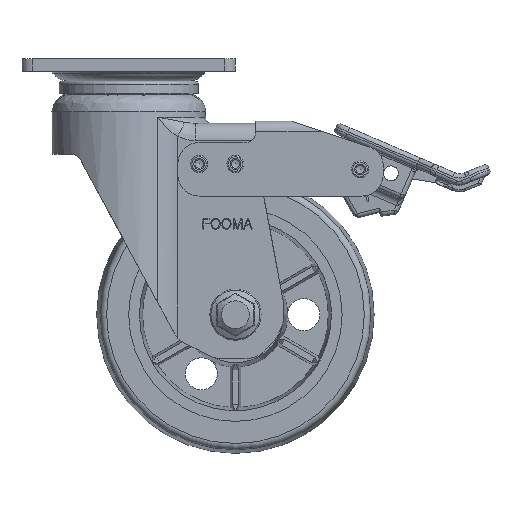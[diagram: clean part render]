
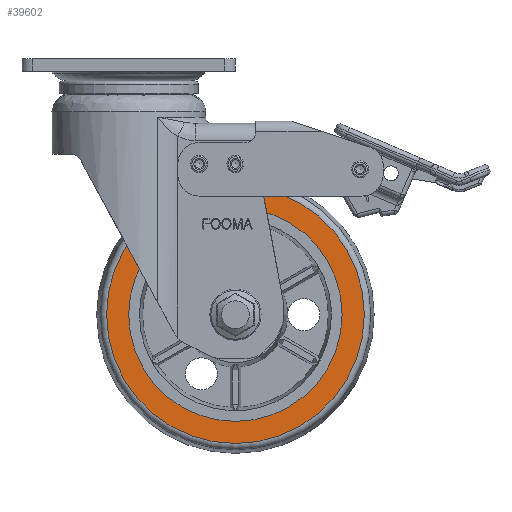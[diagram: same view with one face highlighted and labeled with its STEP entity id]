
A CAD part, left-side view. The second image highlights one B-rep face of the part: STEP entity #39602.
In plain terms, the highlighted planar face has unit normal (-1, 0, 0).
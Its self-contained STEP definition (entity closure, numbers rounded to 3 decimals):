
#39551=CARTESIAN_POINT('',(-114.013,277.184,-188.712));
#39552=VERTEX_POINT('',#39551);
#39553=CARTESIAN_POINT('',(-114.013,337.558,-188.712));
#39554=DIRECTION('',(1.0,0.0,0.0));
#39555=DIRECTION('',(0.0,1.0,0.0));
#39556=AXIS2_PLACEMENT_3D('',#39553,#39554,#39555);
#39557=CIRCLE('',#39556,60.373);
#39558=EDGE_CURVE('',#39552,#39552,#39557,.T.);
#39583=CARTESIAN_POINT('',(-114.013,306.058,-188.712));
#39584=DIRECTION('',(-1.0,0.0,0.0));
#39585=DIRECTION('',(0.0,0.0,1.0));
#39586=AXIS2_PLACEMENT_3D('',#39583,#39584,#39585);
#39587=PLANE('',#39586);
#39588=ORIENTED_EDGE('',*,*,#39558,.F.);
#39589=EDGE_LOOP('',(#39588));
#39590=FACE_OUTER_BOUND('',#39589,.T.);
#39591=CARTESIAN_POINT('',(-114.013,387.558,-188.712));
#39592=VERTEX_POINT('',#39591);
#39593=CARTESIAN_POINT('',(-114.013,337.558,-188.712));
#39594=DIRECTION('',(1.0,0.0,0.0));
#39595=DIRECTION('',(0.0,-1.0,0.0));
#39596=AXIS2_PLACEMENT_3D('',#39593,#39594,#39595);
#39597=CIRCLE('',#39596,50.0);
#39598=EDGE_CURVE('',#39592,#39592,#39597,.T.);
#39599=ORIENTED_EDGE('',*,*,#39598,.T.);
#39600=EDGE_LOOP('',(#39599));
#39601=FACE_BOUND('',#39600,.T.);
#39602=ADVANCED_FACE('',(#39590,#39601),#39587,.T.);
